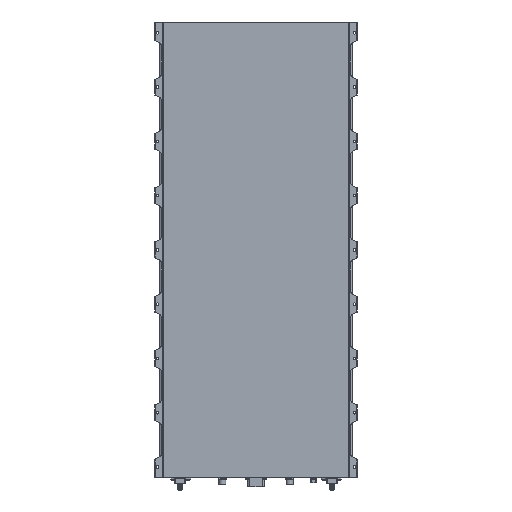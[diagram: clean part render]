
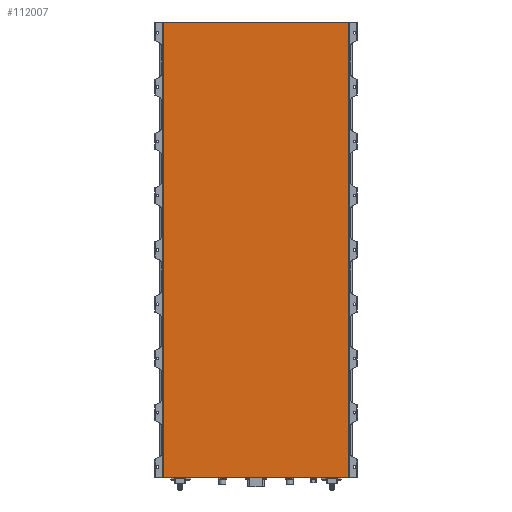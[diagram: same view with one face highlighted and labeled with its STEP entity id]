
A CAD part, front view. The second image highlights one B-rep face of the part: STEP entity #112007.
In plain terms, the highlighted planar face has unit normal (0, -1, 0).
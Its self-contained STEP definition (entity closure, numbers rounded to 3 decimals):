
#27401 = ORIENTED_EDGE ( 'NONE', *, *, #118937, .T. ) ;
#27832 = VECTOR ( 'NONE', #124632, 1000. ) ;
#38432 = EDGE_CURVE ( 'NONE', #41566, #74129, #52158, .T. ) ;
#41566 = VERTEX_POINT ( 'NONE', #171293 ) ;
#45857 = PLANE ( 'NONE',  #159895 ) ;
#52158 = LINE ( 'NONE', #119808, #103777 ) ;
#53265 = DIRECTION ( 'NONE',  ( 1., 0., 0. ) ) ;
#61999 = CARTESIAN_POINT ( 'NONE',  ( 863.5, 0., 2100. ) ) ;
#74129 = VERTEX_POINT ( 'NONE', #134624 ) ;
#75359 = DIRECTION ( 'NONE',  ( 0., 0., -1. ) ) ;
#76856 = EDGE_CURVE ( 'NONE', #119763, #41566, #109072, .T. ) ;
#78611 = DIRECTION ( 'NONE',  ( -1., 0., 0. ) ) ;
#81945 = CARTESIAN_POINT ( 'NONE',  ( 863.5, 0., 2100. ) ) ;
#92026 = LINE ( 'NONE', #102420, #156699 ) ;
#94005 = EDGE_LOOP ( 'NONE', ( #27401, #101355, #101468, #142638 ) ) ;
#101355 = ORIENTED_EDGE ( 'NONE', *, *, #76856, .T. ) ;
#101468 = ORIENTED_EDGE ( 'NONE', *, *, #38432, .T. ) ;
#102420 = CARTESIAN_POINT ( 'NONE',  ( 863.5, 0., 2955.015 ) ) ;
#103777 = VECTOR ( 'NONE', #53265, 1000. ) ;
#109072 = LINE ( 'NONE', #175647, #27832 ) ;
#109751 = LINE ( 'NONE', #61999, #160618 ) ;
#112007 = ADVANCED_FACE ( 'NONE', ( #210195 ), #45857, .F. ) ;
#113279 = EDGE_CURVE ( 'NONE', #190290, #74129, #92026, .T. ) ;
#118937 = EDGE_CURVE ( 'NONE', #190290, #119763, #109751, .T. ) ;
#119763 = VERTEX_POINT ( 'NONE', #142873 ) ;
#119808 = CARTESIAN_POINT ( 'NONE',  ( 863.5, 0., 0. ) ) ;
#124632 = DIRECTION ( 'NONE',  ( 0., 0., -1. ) ) ;
#126061 = CARTESIAN_POINT ( 'NONE',  ( 863.5, 0., 2955.015 ) ) ;
#134624 = CARTESIAN_POINT ( 'NONE',  ( 863.5, 0., 0. ) ) ;
#142638 = ORIENTED_EDGE ( 'NONE', *, *, #113279, .F. ) ;
#142873 = CARTESIAN_POINT ( 'NONE',  ( 8.5, 0., 2100. ) ) ;
#149010 = DIRECTION ( 'NONE',  ( 0., 1., 0. ) ) ;
#156699 = VECTOR ( 'NONE', #75359, 1000. ) ;
#159895 = AXIS2_PLACEMENT_3D ( 'NONE', #126061, #149010, #216533 ) ;
#160618 = VECTOR ( 'NONE', #78611, 1000. ) ;
#171293 = CARTESIAN_POINT ( 'NONE',  ( 8.5, 0., 0. ) ) ;
#175647 = CARTESIAN_POINT ( 'NONE',  ( 8.5, 0., 2955.015 ) ) ;
#190290 = VERTEX_POINT ( 'NONE', #81945 ) ;
#210195 = FACE_OUTER_BOUND ( 'NONE', #94005, .T. ) ;
#216533 = DIRECTION ( 'NONE',  ( 1., 0., 0. ) ) ;
